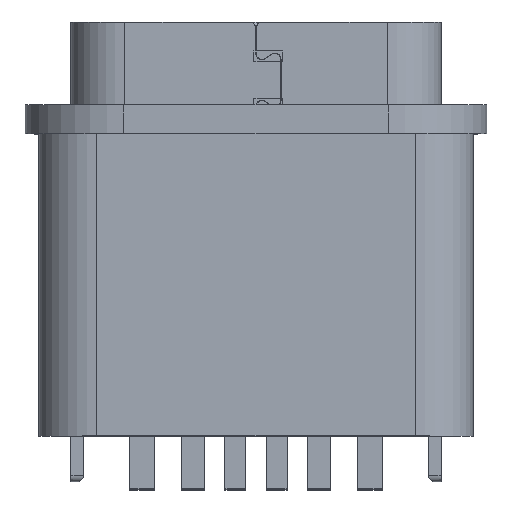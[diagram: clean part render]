
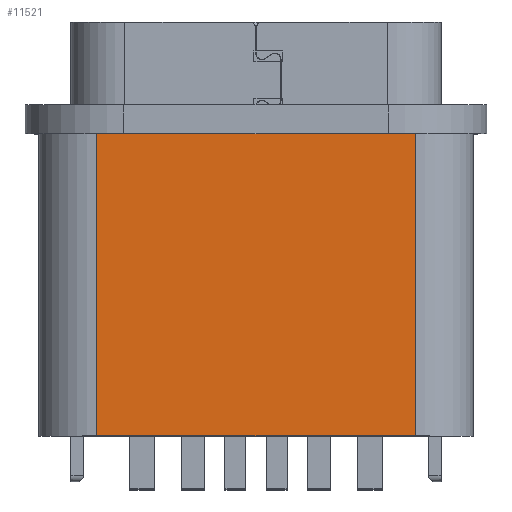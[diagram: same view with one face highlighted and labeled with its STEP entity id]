
A CAD part, top view. The second image highlights one B-rep face of the part: STEP entity #11521.
In plain terms, the highlighted planar face has unit normal (0, 0, 1).
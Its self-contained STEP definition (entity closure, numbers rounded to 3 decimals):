
#702=DIRECTION('',(-1.,0.,0.));
#703=VECTOR('',#702,7.7);
#704=CARTESIAN_POINT('',(3.85,1.75,2.38));
#705=LINE('',#704,#703);
#733=DIRECTION('',(0.,1.,0.));
#734=VECTOR('',#733,7.3);
#735=CARTESIAN_POINT('',(3.85,-5.55,2.38));
#736=LINE('',#735,#734);
#1665=DIRECTION('',(0.,-1.,0.));
#1666=VECTOR('',#1665,7.3);
#1667=CARTESIAN_POINT('',(-3.85,1.75,2.38));
#1668=LINE('',#1667,#1666);
#1685=DIRECTION('',(-1.,0.,0.));
#1686=VECTOR('',#1685,7.7);
#1687=CARTESIAN_POINT('',(3.85,-5.55,2.38));
#1688=LINE('',#1687,#1686);
#8292=CARTESIAN_POINT('',(3.85,1.75,2.38));
#8294=VERTEX_POINT('',#8292);
#8295=CARTESIAN_POINT('',(-3.85,1.75,2.38));
#8296=VERTEX_POINT('',#8295);
#8309=CARTESIAN_POINT('',(3.85,-5.55,2.38));
#8310=VERTEX_POINT('',#8309);
#8321=CARTESIAN_POINT('',(-3.85,-5.55,2.38));
#8322=VERTEX_POINT('',#8321);
#11510=CARTESIAN_POINT('',(0.,-1.4,2.38));
#11511=DIRECTION('',(0.,0.,1.));
#11512=DIRECTION('',(1.,0.,0.));
#11513=AXIS2_PLACEMENT_3D('',#11510,#11511,#11512);
#11514=PLANE('',#11513);
#11515=ORIENTED_EDGE('',*,*,#10097,.F.);
#11516=ORIENTED_EDGE('',*,*,#10121,.F.);
#11517=ORIENTED_EDGE('',*,*,#10136,.T.);
#11518=ORIENTED_EDGE('',*,*,#11441,.F.);
#11519=EDGE_LOOP('',(#11515,#11516,#11517,#11518));
#11520=FACE_OUTER_BOUND('',#11519,.F.);
#11521=ADVANCED_FACE('',(#11520),#11514,.T.);
#10097=EDGE_CURVE('',#8294,#8296,#705,.T.);
#10121=EDGE_CURVE('',#8310,#8294,#736,.T.);
#10136=EDGE_CURVE('',#8310,#8322,#1688,.T.);
#11441=EDGE_CURVE('',#8296,#8322,#1668,.T.);
